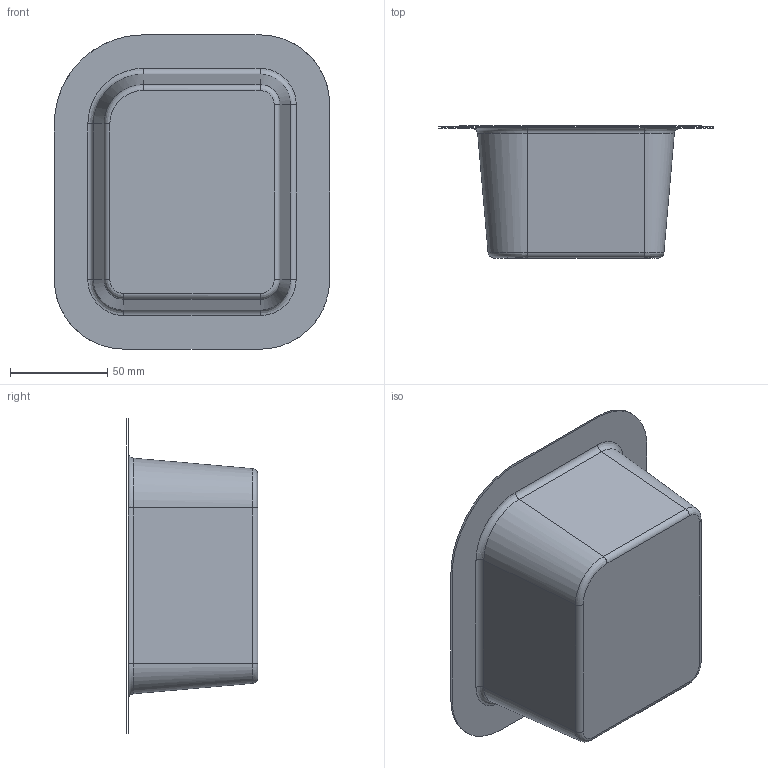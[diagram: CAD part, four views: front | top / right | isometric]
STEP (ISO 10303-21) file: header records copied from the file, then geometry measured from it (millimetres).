
FILE_DESCRIPTION(('CATIA V5 STEP Exchange'),'2;1');
FILE_NAME('C:\_Andres\UNIVERSIDAD\IQS\ASIGNATURAS\DAO\Controles\1617\c3\2inicio\Duch_Leira_control3_v10.stp','2017-02-17T14:22:04+00:00',('none'),('none'),'CATIA Version 5-6 Release 2014 SP1 HF18','CATIA V5 STEP AP203','none');
FILE_SCHEMA(('CONFIG_CONTROL_DESIGN'));
Length unit declared in the file: millimetre
Products named in the file (1): Duch_Leira_control3_v10
Bounding box: 141.68 x 67.75 x 161.68 mm (x, y, z)
Surface area: 66699.5 mm2 (no closed solid volume)
Topology: 0 solids, 2 shells, 27 faces, 80 edges, 57 vertices
Faces by surface type: bspline 16, cylinder 8, plane 3
Entity records: 1907 total; most frequent: CARTESIAN_POINT 1311, ORIENTED_EDGE 128, EDGE_CURVE 72, B_SPLINE_CURVE_WITH_KNOTS 54, DIRECTION 50, VERTEX_POINT 48, EDGE_LOOP 28, ADVANCED_FACE 27
